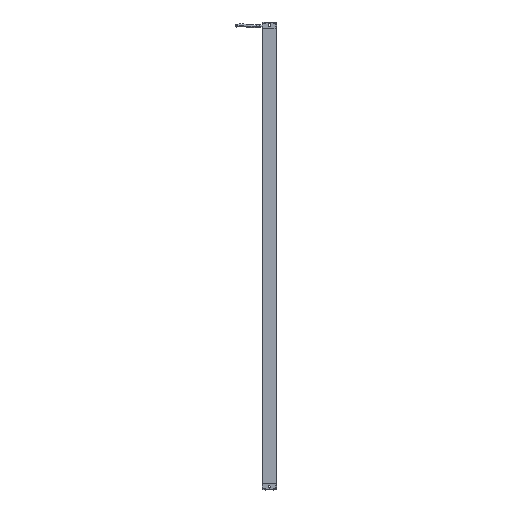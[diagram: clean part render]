
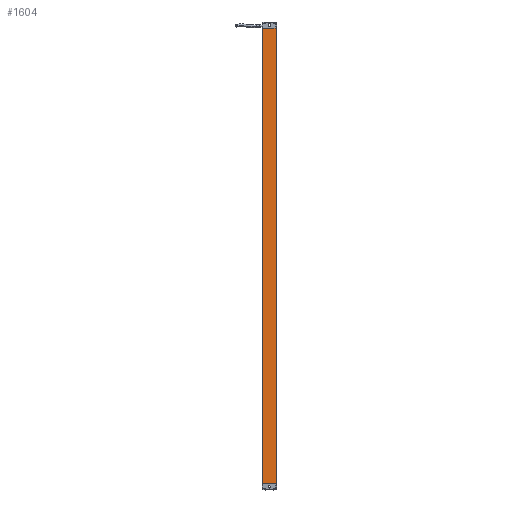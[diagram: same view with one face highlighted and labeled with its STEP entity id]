
A CAD part, front view. The second image highlights one B-rep face of the part: STEP entity #1604.
In plain terms, the highlighted planar face has unit normal (-0.001, -1, 0).
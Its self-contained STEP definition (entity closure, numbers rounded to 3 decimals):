
#1604=ADVANCED_FACE('',(#2720),#2349,.T.);
#2349=PLANE('',#14604);
#2720=FACE_OUTER_BOUND('',#3441,.T.);
#3441=EDGE_LOOP('',(#4477,#4478,#4479,#4480));
#4477=ORIENTED_EDGE('',*,*,#10104,.T.);
#4478=ORIENTED_EDGE('',*,*,#10057,.F.);
#4479=ORIENTED_EDGE('',*,*,#10102,.T.);
#4480=ORIENTED_EDGE('',*,*,#10105,.T.);
#8601=VERTEX_POINT('',#19890);
#8602=VERTEX_POINT('',#19892);
#8639=VERTEX_POINT('',#19981);
#8640=VERTEX_POINT('',#19985);
#10057=EDGE_CURVE('',#8601,#8602,#12174,.T.);
#10102=EDGE_CURVE('',#8601,#8639,#12205,.T.);
#10104=EDGE_CURVE('',#8640,#8602,#12206,.T.);
#10105=EDGE_CURVE('',#8639,#8640,#12207,.T.);
#12174=LINE('',#19891,#13389);
#12205=LINE('',#19980,#13420);
#12206=LINE('',#19984,#13421);
#12207=LINE('',#19986,#13422);
#13389=VECTOR('',#16033,1.);
#13420=VECTOR('',#16106,1.);
#13421=VECTOR('',#16111,1.);
#13422=VECTOR('',#16112,1.);
#14604=AXIS2_PLACEMENT_3D('',#19987,#16113,#16114);
#16033=DIRECTION('',(1.,-0.001,0.));
#16106=DIRECTION('',(0.,0.,-1.));
#16111=DIRECTION('',(0.,0.,1.));
#16112=DIRECTION('',(1.,-0.001,0.));
#16113=DIRECTION('',(-0.001,-1.,0.));
#16114=DIRECTION('',(1.,-0.001,0.));
#19890=CARTESIAN_POINT('',(53.048,-142.376,1080.376));
#19891=CARTESIAN_POINT('',(79.028,-142.395,1080.376));
#19892=CARTESIAN_POINT('',(79.028,-142.395,1080.376));
#19980=CARTESIAN_POINT('',(53.048,-142.376,543.376));
#19981=CARTESIAN_POINT('',(53.048,-142.376,198.376));
#19984=CARTESIAN_POINT('',(79.028,-142.395,198.376));
#19985=CARTESIAN_POINT('',(79.028,-142.395,198.376));
#19986=CARTESIAN_POINT('',(53.048,-142.376,198.376));
#19987=CARTESIAN_POINT('',(79.028,-142.395,543.376));
